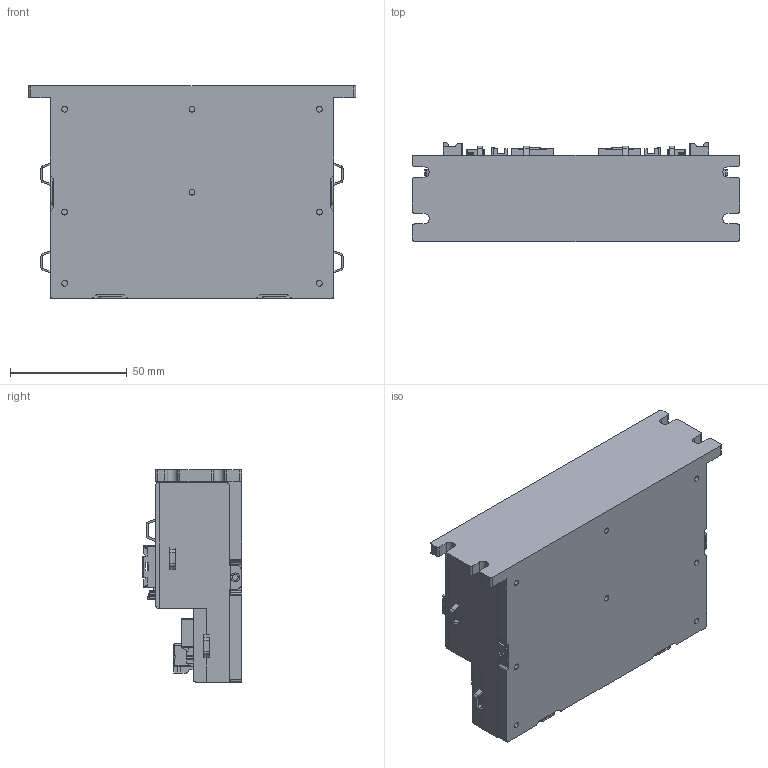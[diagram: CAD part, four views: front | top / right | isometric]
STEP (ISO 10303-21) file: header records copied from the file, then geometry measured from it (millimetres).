
FILE_DESCRIPTION((''),'2;1');
FILE_NAME('000-FD124S-AB-D2','2023-12-20T18:07:02',('RD0060'),(''),'CREO PARAMETRIC BY PTC INC, 2016510','CREO PARAMETRIC BY PTC INC, 2016510','');
FILE_SCHEMA(('CONFIG_CONTROL_DESIGN'));
Products named in the file (1): 000-FD124S-AB-D2
Bounding box: 140 x 42.6 x 90.8 mm (x, y, z)
Surface area: 86450.3 mm2 (no closed solid volume)
Topology: 0 solids, 108 shells, 2178 faces, 6881 edges, 4698 vertices
Faces by surface type: plane 1789, cylinder 372, cone 12, sphere 5
Entity records: 74196 total; most frequent: CARTESIAN_POINT 14367, DIRECTION 11816, ORIENTED_EDGE 11591, EDGE_CURVE 6876, VECTOR 5964, LINE 5964, VERTEX_POINT 4698, AXIS2_PLACEMENT_3D 2926
